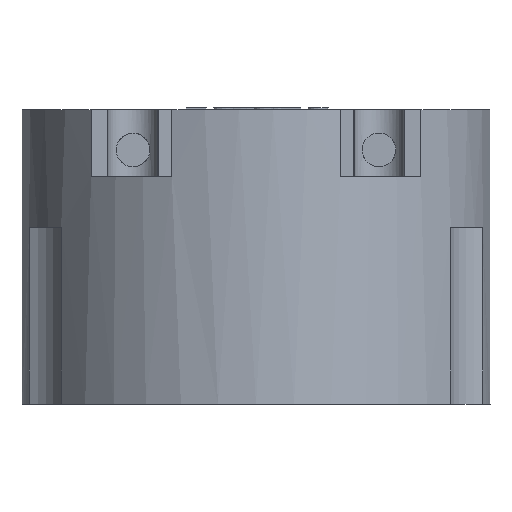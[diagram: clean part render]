
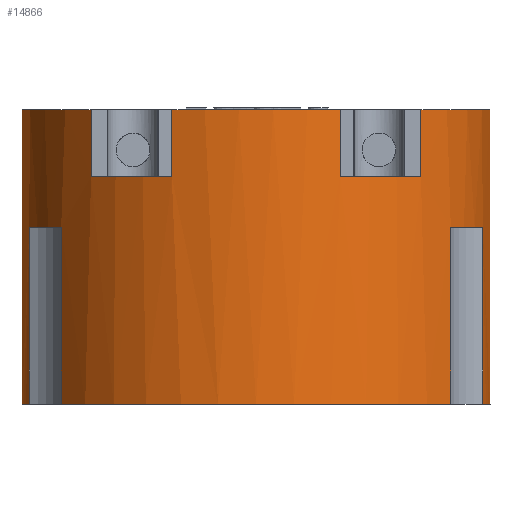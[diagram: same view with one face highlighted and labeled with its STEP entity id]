
A CAD part, front view. The second image highlights one B-rep face of the part: STEP entity #14866.
In plain terms, the highlighted cylindrical face has radius 14 mm (diameter 28 mm), a partial arc.
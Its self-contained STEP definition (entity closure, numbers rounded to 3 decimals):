
#7631= CARTESIAN_POINT(' ',(-13.9,-1.67,4.7));
#7632= VERTEX_POINT(' ',#7631);
#7646= CARTESIAN_POINT(' ',(0.,0.,4.7));
#7651= DIRECTION(' ',(0.,0.,-1.));
#7656= DIRECTION(' ',(-0.7,-0.714,0.));
#7661= AXIS2_PLACEMENT_3D(' ',#7646,#7651,#7656);
#7666= CIRCLE(' ',#7661,14.);
#7671= CARTESIAN_POINT(' ',(-9.798,-10.,4.7));
#7672= VERTEX_POINT(' ',#7671);
#7676= EDGE_CURVE(' ',#7672,#7632,#7666,.T.);
#7856= CARTESIAN_POINT(' ',(-5.,-13.077,4.7));
#7857= VERTEX_POINT(' ',#7856);
#7871= CARTESIAN_POINT(' ',(0.,0.,4.7));
#7876= DIRECTION(' ',(0.,0.,-1.));
#7881= DIRECTION(' ',(0.357,-0.934,0.));
#7886= AXIS2_PLACEMENT_3D(' ',#7871,#7876,#7881);
#7891= CIRCLE(' ',#7886,14.);
#7896= CARTESIAN_POINT(' ',(5.,-13.077,4.7));
#7897= VERTEX_POINT(' ',#7896);
#7901= EDGE_CURVE(' ',#7897,#7857,#7891,.T.);
#8081= CARTESIAN_POINT(' ',(9.798,-10.,4.7));
#8082= VERTEX_POINT(' ',#8081);
#8096= CARTESIAN_POINT(' ',(0.,0.,4.7));
#8101= DIRECTION(' ',(0.,0.,-1.));
#8106= DIRECTION(' ',(0.993,-0.119,0.));
#8111= AXIS2_PLACEMENT_3D(' ',#8096,#8101,#8106);
#8116= CIRCLE(' ',#8111,14.);
#8121= CARTESIAN_POINT(' ',(13.9,-1.67,4.7));
#8122= VERTEX_POINT(' ',#8121);
#8126= EDGE_CURVE(' ',#8122,#8082,#8116,.T.);
#14161= CARTESIAN_POINT(' ',(-13.9,-1.67,-12.8));
#14162= VERTEX_POINT(' ',#14161);
#14176= CARTESIAN_POINT(' ',(-13.9,-1.67,-12.8));
#14181= DIRECTION(' ',(0.,0.,1.));
#14186= VECTOR(' ',#14181,1.);
#14191= LINE(' ',#14176,#14186);
#14196= EDGE_CURVE(' ',#14162,#7632,#14191,.T.);
#14231= CARTESIAN_POINT(' ',(0.,0.,4.7));
#14236= DIRECTION(' ',(0.,0.,-1.));
#14241= DIRECTION(' ',(0.993,-0.119,0.));
#14246= AXIS2_PLACEMENT_3D(' ',#14231,#14236,#14241);
#14251= CYLINDRICAL_SURFACE(' ',#14246,14.);
#14256= CARTESIAN_POINT(' ',(0.,0.,-12.8));
#14261= DIRECTION(' ',(0.,0.,-1.));
#14266= DIRECTION(' ',(-0.962,-0.272,0.));
#14271= AXIS2_PLACEMENT_3D(' ',#14256,#14261,#14266);
#14276= CIRCLE(' ',#14271,14.);
#14281= CARTESIAN_POINT(' ',(-13.474,-3.802,-12.8));
#14282= VERTEX_POINT(' ',#14281);
#14286= EDGE_CURVE(' ',#14282,#14162,#14276,.T.);
#14291= ORIENTED_EDGE(' ',*,*,#14286,.F.);
#14296= CARTESIAN_POINT(' ',(-13.474,-3.802,-12.8));
#14301= DIRECTION(' ',(0.,0.,1.));
#14306= VECTOR(' ',#14301,1.);
#14311= LINE(' ',#14296,#14306);
#14316= CARTESIAN_POINT(' ',(-13.474,-3.802,-2.3));
#14317= VERTEX_POINT(' ',#14316);
#14321= EDGE_CURVE(' ',#14282,#14317,#14311,.T.);
#14326= ORIENTED_EDGE(' ',*,*,#14321,.T.);
#14331= CARTESIAN_POINT(' ',(0.,0.,-2.3));
#14336= DIRECTION(' ',(0.,0.,1.));
#14341= DIRECTION(' ',(-0.962,-0.272,0.));
#14346= AXIS2_PLACEMENT_3D(' ',#14331,#14336,#14341);
#14351= CIRCLE(' ',#14346,14.);
#14356= CARTESIAN_POINT(' ',(-11.573,-7.878,-2.3));
#14357= VERTEX_POINT(' ',#14356);
#14361= EDGE_CURVE(' ',#14317,#14357,#14351,.T.);
#14366= ORIENTED_EDGE(' ',*,*,#14361,.T.);
#14371= CARTESIAN_POINT(' ',(-11.573,-7.878,-2.3));
#14376= DIRECTION(' ',(0.,0.,-1.));
#14381= VECTOR(' ',#14376,1.);
#14386= LINE(' ',#14371,#14381);
#14391= CARTESIAN_POINT(' ',(-11.573,-7.878,-12.8));
#14392= VERTEX_POINT(' ',#14391);
#14396= EDGE_CURVE(' ',#14357,#14392,#14386,.T.);
#14401= ORIENTED_EDGE(' ',*,*,#14396,.T.);
#14406= CARTESIAN_POINT(' ',(0.,0.,-12.8));
#14411= DIRECTION(' ',(0.,0.,-1.));
#14416= DIRECTION(' ',(0.827,-0.563,0.));
#14421= AXIS2_PLACEMENT_3D(' ',#14406,#14411,#14416);
#14426= CIRCLE(' ',#14421,14.);
#14431= CARTESIAN_POINT(' ',(11.573,-7.878,-12.8));
#14432= VERTEX_POINT(' ',#14431);
#14436= EDGE_CURVE(' ',#14432,#14392,#14426,.T.);
#14441= ORIENTED_EDGE(' ',*,*,#14436,.F.);
#14446= CARTESIAN_POINT(' ',(11.573,-7.878,-12.8));
#14451= DIRECTION(' ',(0.,0.,1.));
#14456= VECTOR(' ',#14451,1.);
#14461= LINE(' ',#14446,#14456);
#14466= CARTESIAN_POINT(' ',(11.573,-7.878,-2.3));
#14467= VERTEX_POINT(' ',#14466);
#14471= EDGE_CURVE(' ',#14432,#14467,#14461,.T.);
#14476= ORIENTED_EDGE(' ',*,*,#14471,.T.);
#14481= CARTESIAN_POINT(' ',(0.,0.,-2.3));
#14486= DIRECTION(' ',(0.,0.,1.));
#14491= DIRECTION(' ',(0.827,-0.563,0.));
#14496= AXIS2_PLACEMENT_3D(' ',#14481,#14486,#14491);
#14501= CIRCLE(' ',#14496,14.);
#14506= CARTESIAN_POINT(' ',(13.474,-3.802,-2.3));
#14507= VERTEX_POINT(' ',#14506);
#14511= EDGE_CURVE(' ',#14467,#14507,#14501,.T.);
#14516= ORIENTED_EDGE(' ',*,*,#14511,.T.);
#14521= CARTESIAN_POINT(' ',(13.474,-3.802,-2.3));
#14526= DIRECTION(' ',(0.,0.,-1.));
#14531= VECTOR(' ',#14526,1.);
#14536= LINE(' ',#14521,#14531);
#14541= CARTESIAN_POINT(' ',(13.474,-3.802,-12.8));
#14542= VERTEX_POINT(' ',#14541);
#14546= EDGE_CURVE(' ',#14507,#14542,#14536,.T.);
#14551= ORIENTED_EDGE(' ',*,*,#14546,.T.);
#14556= CARTESIAN_POINT(' ',(-0.001,0.,-12.8));
#14561= DIRECTION(' ',(0.,0.,-1.));
#14566= DIRECTION(' ',(0.993,-0.119,0.));
#14571= AXIS2_PLACEMENT_3D(' ',#14556,#14561,#14566);
#14576= CIRCLE(' ',#14571,14.001);
#14581= CARTESIAN_POINT(' ',(13.9,-1.67,-12.8));
#14582= VERTEX_POINT(' ',#14581);
#14586= EDGE_CURVE(' ',#14582,#14542,#14576,.T.);
#14591= ORIENTED_EDGE(' ',*,*,#14586,.F.);
#14596= CARTESIAN_POINT(' ',(13.9,-1.67,-12.8));
#14601= DIRECTION(' ',(0.,0.,1.));
#14606= VECTOR(' ',#14601,1.);
#14611= LINE(' ',#14596,#14606);
#14616= EDGE_CURVE(' ',#14582,#8122,#14611,.T.);
#14621= ORIENTED_EDGE(' ',*,*,#14616,.T.);
#14626= ORIENTED_EDGE(' ',*,*,#8126,.T.);
#14631= CARTESIAN_POINT(' ',(9.798,-10.,4.7));
#14636= DIRECTION(' ',(0.,0.,-1.));
#14641= VECTOR(' ',#14636,1.);
#14646= LINE(' ',#14631,#14641);
#14651= CARTESIAN_POINT(' ',(9.798,-10.,0.7));
#14652= VERTEX_POINT(' ',#14651);
#14656= EDGE_CURVE(' ',#8082,#14652,#14646,.T.);
#14661= ORIENTED_EDGE(' ',*,*,#14656,.T.);
#14666= CARTESIAN_POINT(' ',(0.,0.,0.7));
#14671= DIRECTION(' ',(0.,0.,-1.));
#14676= DIRECTION(' ',(0.7,-0.714,0.));
#14681= AXIS2_PLACEMENT_3D(' ',#14666,#14671,#14676);
#14686= CIRCLE(' ',#14681,14.);
#14691= CARTESIAN_POINT(' ',(5.,-13.077,0.7));
#14692= VERTEX_POINT(' ',#14691);
#14696= EDGE_CURVE(' ',#14652,#14692,#14686,.T.);
#14701= ORIENTED_EDGE(' ',*,*,#14696,.T.);
#14706= CARTESIAN_POINT(' ',(5.,-13.077,0.7));
#14711= DIRECTION(' ',(0.,0.,1.));
#14716= VECTOR(' ',#14711,1.);
#14721= LINE(' ',#14706,#14716);
#14726= EDGE_CURVE(' ',#14692,#7897,#14721,.T.);
#14731= ORIENTED_EDGE(' ',*,*,#14726,.T.);
#14736= ORIENTED_EDGE(' ',*,*,#7901,.T.);
#14741= CARTESIAN_POINT(' ',(-5.,-13.077,4.7));
#14746= DIRECTION(' ',(0.,0.,-1.));
#14751= VECTOR(' ',#14746,1.);
#14756= LINE(' ',#14741,#14751);
#14761= CARTESIAN_POINT(' ',(-5.,-13.077,0.7));
#14762= VERTEX_POINT(' ',#14761);
#14766= EDGE_CURVE(' ',#7857,#14762,#14756,.T.);
#14771= ORIENTED_EDGE(' ',*,*,#14766,.T.);
#14776= CARTESIAN_POINT(' ',(0.,0.,0.7));
#14781= DIRECTION(' ',(0.,0.,-1.));
#14786= DIRECTION(' ',(-0.357,-0.934,0.));
#14791= AXIS2_PLACEMENT_3D(' ',#14776,#14781,#14786);
#14796= CIRCLE(' ',#14791,14.);
#14801= CARTESIAN_POINT(' ',(-9.798,-10.,0.7));
#14802= VERTEX_POINT(' ',#14801);
#14806= EDGE_CURVE(' ',#14762,#14802,#14796,.T.);
#14811= ORIENTED_EDGE(' ',*,*,#14806,.T.);
#14816= CARTESIAN_POINT(' ',(-9.798,-10.,0.7));
#14821= DIRECTION(' ',(0.,0.,1.));
#14826= VECTOR(' ',#14821,1.);
#14831= LINE(' ',#14816,#14826);
#14836= EDGE_CURVE(' ',#14802,#7672,#14831,.T.);
#14841= ORIENTED_EDGE(' ',*,*,#14836,.T.);
#14846= ORIENTED_EDGE(' ',*,*,#7676,.T.);
#14851= ORIENTED_EDGE(' ',*,*,#14196,.F.);
#14856= EDGE_LOOP(' ',(#14291,#14326,#14366,#14401,#14441,#14476,#14516,#14551,#14591,#14621,#14626,#14661,#14701,#14731,#14736,#14771,#14811,#14841,#14846,#14851));
#14861= FACE_OUTER_BOUND(' ',#14856,.T.);
#14866= ADVANCED_FACE(' ',(#14861),#14251,.T.);
